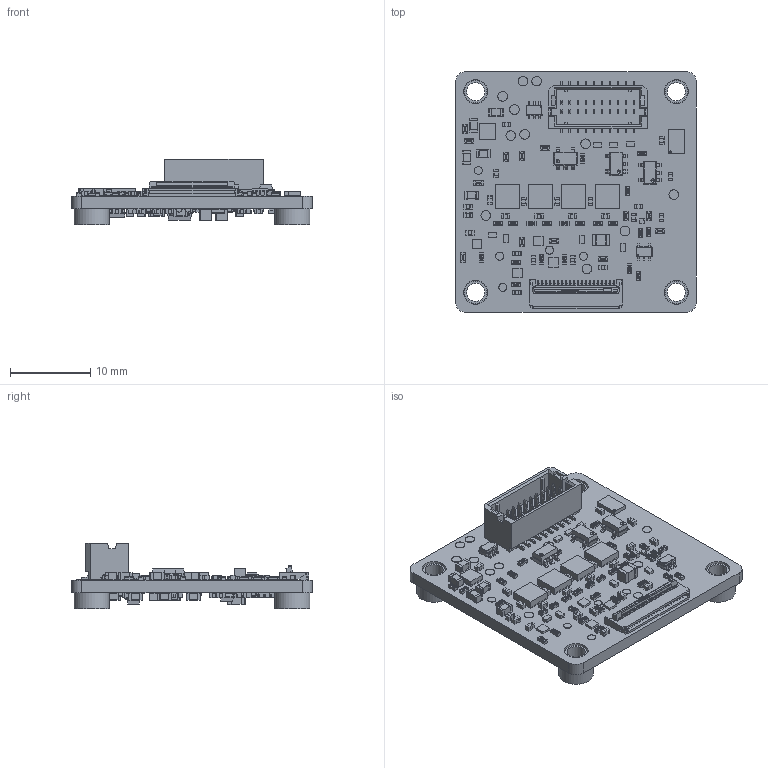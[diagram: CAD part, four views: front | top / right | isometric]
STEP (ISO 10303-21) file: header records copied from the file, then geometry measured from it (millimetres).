
FILE_DESCRIPTION (( 'STEP AP203' ), '1' );
FILE_NAME ('180-921-00__Rev-0-03.step', '2026-03-24T12:38:16', ( '' ), ( '' ), 'SwSTEP 2.0', 'SolidWorks 2024', '' );
FILE_SCHEMA (( 'CONFIG_CONTROL_DESIGN' ));
Products named in the file (1): 180-921-00__Rev-0-03
Bounding box: 30 x 30 x 8.21 mm (x, y, z)
Surface area: 3402.9 mm2 (no closed solid volume)
Topology: 0 solids, 737 shells, 4120 faces, 18430 edges, 14738 vertices
Faces by surface type: plane 3126, cylinder 855, bspline 99, sphere 39, torus 1
Full cylindrical faces by diameter (mm): 0.2 x1, 0.4 x1, 0.7 x2, 1 x5, 1.2 x11, 2.25 x4, 3 x4, 4.35 x4
Entity records: 232624 total; most frequent: CARTESIAN_POINT 94714, DIRECTION 25041, ORIENTED_EDGE 23906, EDGE_CURVE 18368, VERTEX_POINT 14738, VECTOR 13611, LINE 13611, AXIS2_PLACEMENT_3D 5715
